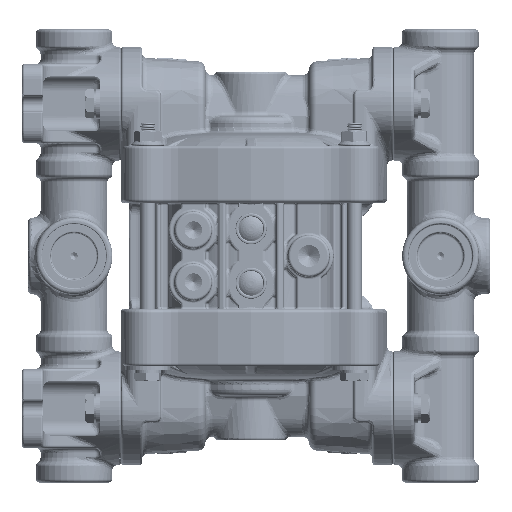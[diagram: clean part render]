
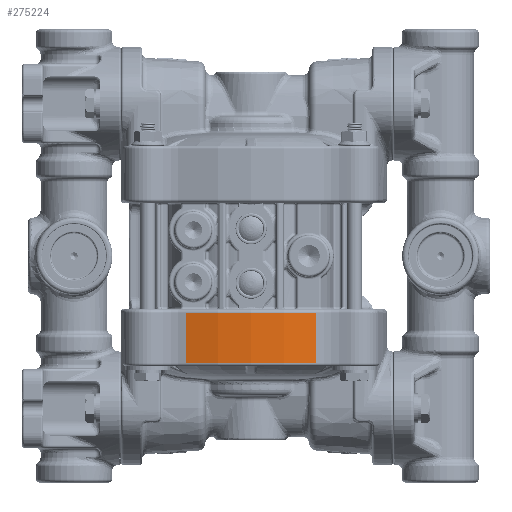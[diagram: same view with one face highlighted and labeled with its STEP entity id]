
A CAD part, front view. The second image highlights one B-rep face of the part: STEP entity #275224.
In plain terms, the highlighted cylindrical face has radius 90 mm (diameter 180 mm), a partial arc.
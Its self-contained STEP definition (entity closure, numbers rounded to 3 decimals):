
#7905 = EDGE_CURVE ( 'NONE', #295008, #105198, #126039, .T. ) ;
#10057 = EDGE_CURVE ( 'NONE', #208714, #295008, #234100, .T. ) ;
#13695 = VERTEX_POINT ( 'NONE', #237418 ) ;
#15193 = DIRECTION ( 'NONE',  ( 1., 0., 0. ) ) ;
#42388 = ORIENTED_EDGE ( 'NONE', *, *, #130362, .T. ) ;
#44936 = VECTOR ( 'NONE', #295450, 1000. ) ;
#58964 = DIRECTION ( 'NONE',  ( 1., 0., 0. ) ) ;
#59066 = CARTESIAN_POINT ( 'NONE',  ( -26.362, -51.053, -23. ) ) ;
#59257 = FACE_OUTER_BOUND ( 'NONE', #261643, .T. ) ;
#92800 = ORIENTED_EDGE ( 'NONE', *, *, #138504, .T. ) ;
#100604 = CARTESIAN_POINT ( 'NONE',  ( 26.362, -51.053, -23. ) ) ;
#105198 = VERTEX_POINT ( 'NONE', #112016 ) ;
#109638 = DIRECTION ( 'NONE',  ( 0., 0., -1. ) ) ;
#112016 = CARTESIAN_POINT ( 'NONE',  ( -26.362, -51.053, -43.2 ) ) ;
#126039 = LINE ( 'NONE', #238505, #208802 ) ;
#130362 = EDGE_CURVE ( 'NONE', #13695, #208714, #251298, .T. ) ;
#138504 = EDGE_CURVE ( 'NONE', #105198, #13695, #206250, .T. ) ;
#140837 = ORIENTED_EDGE ( 'NONE', *, *, #7905, .T. ) ;
#163074 = ORIENTED_EDGE ( 'NONE', *, *, #10057, .T. ) ;
#202392 = DIRECTION ( 'NONE',  ( -1., 0., 0. ) ) ;
#206250 = CIRCLE ( 'NONE', #220759, 90. ) ;
#208714 = VERTEX_POINT ( 'NONE', #100604 ) ;
#208802 = VECTOR ( 'NONE', #241509, 1000. ) ;
#220759 = AXIS2_PLACEMENT_3D ( 'NONE', #223128, #271620, #58964 ) ;
#223128 = CARTESIAN_POINT ( 'NONE',  ( 0., 35., -43.2 ) ) ;
#225140 = CARTESIAN_POINT ( 'NONE',  ( 0., 35., -23. ) ) ;
#234100 = CIRCLE ( 'NONE', #272887, 90. ) ;
#237418 = CARTESIAN_POINT ( 'NONE',  ( 26.362, -51.053, -43.2 ) ) ;
#238505 = CARTESIAN_POINT ( 'NONE',  ( -26.362, -51.053, -27.499 ) ) ;
#241509 = DIRECTION ( 'NONE',  ( 0., 0., -1. ) ) ;
#249819 = CARTESIAN_POINT ( 'NONE',  ( 26.362, -51.053, -27.499 ) ) ;
#251298 = LINE ( 'NONE', #249819, #44936 ) ;
#261643 = EDGE_LOOP ( 'NONE', ( #140837, #92800, #42388, #163074 ) ) ;
#269101 = AXIS2_PLACEMENT_3D ( 'NONE', #271928, #296266, #15193 ) ;
#271620 = DIRECTION ( 'NONE',  ( 0., 0., 1. ) ) ;
#271928 = CARTESIAN_POINT ( 'NONE',  ( 0., 35., -27.499 ) ) ;
#272887 = AXIS2_PLACEMENT_3D ( 'NONE', #225140, #109638, #202392 ) ;
#273432 = CYLINDRICAL_SURFACE ( 'NONE', #269101, 90. ) ;
#275224 = ADVANCED_FACE ( 'NONE', ( #59257 ), #273432, .T. ) ;
#295008 = VERTEX_POINT ( 'NONE', #59066 ) ;
#295450 = DIRECTION ( 'NONE',  ( 0., 0., 1. ) ) ;
#296266 = DIRECTION ( 'NONE',  ( 0., 0., -1. ) ) ;
